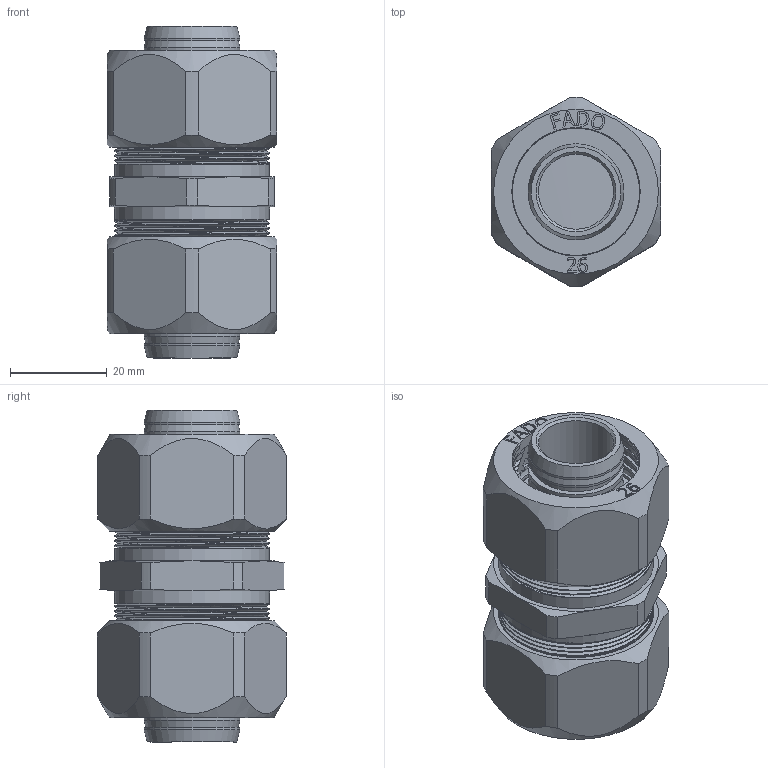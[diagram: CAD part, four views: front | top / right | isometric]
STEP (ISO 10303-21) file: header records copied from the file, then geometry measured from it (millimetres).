
FILE_DESCRIPTION(/* description */ (''),/* implementation_level */ '2;1');
FILE_NAME(/* name */ 'C:\Users\Doom\Desktop\Фадотех\Обжим\RFM06 26 30.03.2020\RFM06 26 30.03.2020.stp',/* time_stamp */ '2022-06-01T20:03:08+03:00',/* author */ ('Doom'),/* organization */ (''),/* preprocessor_version */ 'ST-DEVELOPER v18',/* originating_system */ 'Autodesk Inventor 2020',/* authorisation */ '');
FILE_SCHEMA (('AUTOMOTIVE_DESIGN { 1 0 10303 214 3 1 1 }'));
Products named in the file (5): RFM06 26 30.03.2020; RFM06 26 30.03.2020_1; FADO MC Nut-26 15.02.2020; FADO MC Socket-26 15.02.2020; Olive 26 15.02.2020
Assembly tree (7 placements, depth 2):
  RFM06 26 30.03.2020
    RFM06 26 30.03.2020_1
    FADO MC Nut-26 15.02.2020  x2
    FADO MC Socket-26 15.02.2020  x2
    Olive 26 15.02.2020  x2
Bounding box: 35 x 39 x 68.5 mm (x, y, z)
Volume: 35249.6 mm3; surface area: 42969.5 mm2
Topology: 11 solids, 11 shells, 1012 faces, 2786 edges, 1876 vertices
Faces by surface type: bspline 532, plane 270, cylinder 164, cone 42, torus 4
Full cylindrical faces by diameter (mm): 15.5 x2, 17.6 x4, 19.8 x10, 21 x2, 24 x4, 24.5 x1, 26.5 x2, 30 x2, 30.517 x26, 30.6 x2, 32 x25
Entity records: 37677 total; most frequent: CARTESIAN_POINT 25483, ORIENTED_EDGE 2980, DIRECTION 1670, EDGE_CURVE 1490, VERTEX_POINT 1002, B_SPLINE_CURVE_WITH_KNOTS 631, EDGE_LOOP 602, AXIS2_PLACEMENT_3D 565
